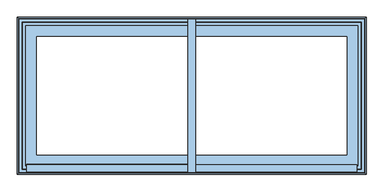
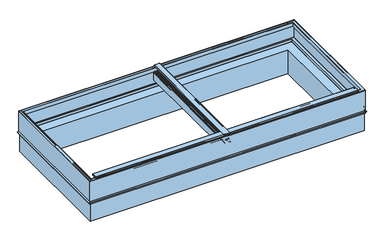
"""IFC4 building model written with IfcOpenShell, lengths in millimetres: window geometry, L&A_KlearSky_R19_GM_SingleSlope_LOD200 : KlearSky_Single Slope."""

from ifc_helpers import new_model, si_unit, point, frame, frame_2d, origin, place, context, project, spatial, polyline, circle_curve, ellipse_curve, trimmed, segment, composite_curve, outline, extrude, source, transform, mapped, element, save
from ifc_brep_helpers import plane_surface, cylinder_surface, advanced_brep


def window_92d759fe(model_context):
    return source(origin(), model_context, "Body", "SolidModel", [
        extrude(outline(composite_curve([segment(polyline([(-1233.2967315, 4352.8876055), (-1233.2967315, 4343.3626055), (-1240.1116995, 4336.5476376)]), True, "CONTINUOUS"), segment(trimmed(circle_curve(frame_2d((-1238.9891675, 4335.4251055)), 1.5875), [point((-1240.1116995, 4336.5476376))], [point((-1238.9891675, 4333.8376055))], True, "CARTESIAN"), True, "CONTINUOUS"), segment(polyline([(-1238.9891675, 4333.8376055), (-1228.9279315, 4333.8376055), (-1228.9279315, 4340.1876055), (-1226.9467315, 4340.1876055), (-1226.9467315, 4302.0876055), (-1290.4467315, 4302.0876055), (-1290.4467315, 4340.1876055), (-1288.4655315, 4340.1876055), (-1288.4655315, 4333.8376055), (-1271.3967315, 4333.8376055)]), True, "CONTINUOUS"), segment(trimmed(circle_curve(frame_2d((-1271.3967315, 4337.0126055)), 3.175), [point((-1271.3967315, 4333.8376055))], [point((-1268.2217315, 4337.0126055))], True, "CARTESIAN"), True, "CONTINUOUS"), segment(polyline([(-1268.2217315, 4337.0126055), (-1265.0467315, 4340.1876055), (-1265.0467315, 4344.9501055), (-1272.9842315, 4344.9501055)]), True, "CONTINUOUS"), segment(trimmed(circle_curve(frame_2d((-1272.9842315, 4346.5376055)), 1.5875), [point((-1272.9842315, 4344.9501055))], [point((-1274.5717315, 4346.5376055))], False, "CARTESIAN"), True, "CONTINUOUS"), segment(polyline([(-1274.5717315, 4346.5376055), (-1274.5717315, 4352.8876055), (-1271.0792315, 4352.8876055)]), True, "CONTINUOUS"), segment(trimmed(circle_curve(frame_2d((-1271.0792315, 4351.5858555)), 1.30175), [point((-1271.0792315, 4352.8876055))], [point((-1269.8092315, 4351.3001055))], False, "CARTESIAN"), True, "CONTINUOUS"), segment(polyline([(-1269.8092315, 4351.3001055), (-1271.3967315, 4351.3001055), (-1271.3967315, 4348.1251055), (-1265.0467315, 4348.1251055), (-1265.0467315, 4351.3001055), (-1266.6342315, 4351.3001055)]), True, "CONTINUOUS"), segment(trimmed(circle_curve(frame_2d((-1265.3642315, 4351.5858555)), 1.30175), [point((-1266.6342315, 4351.3001055))], [point((-1265.3642315, 4352.8876055))], False, "CARTESIAN"), True, "CONTINUOUS"), segment(polyline([(-1265.3642315, 4352.8876055), (-1263.2433315, 4352.8876055), (-1261.0131138, 4350.6573878), (-1262.0037138, 4350.0854646), (-1260.9777492, 4349.4931237), (-1262.0037138, 4348.9007828), (-1260.9777492, 4348.3084419), (-1262.0037138, 4347.716101), (-1260.9777492, 4347.1237601), (-1262.0037138, 4346.5314192), (-1260.9777492, 4345.9390783), (-1262.0037138, 4345.3467374), (-1260.9777492, 4344.7543965), (-1262.0037138, 4344.1620556), (-1260.9777492, 4343.5697147), (-1262.0037138, 4342.9773738), (-1260.9777492, 4342.3850329), (-1262.0037138, 4341.792692), (-1260.9777492, 4341.2003511), (-1262.0037138, 4340.6080102), (-1260.9777492, 4340.0156692), (-1262.0037138, 4339.4233283), (-1260.9777492, 4338.8309874), (-1262.0037138, 4338.2386465), (-1260.9777492, 4337.6463056), (-1262.07535, 4337.0126055), (-1263.4592315, 4337.0126055)]), True, "CONTINUOUS"), segment(trimmed(circle_curve(frame_2d((-1263.4592315, 4335.4251055)), 1.5875), [point((-1263.4592315, 4337.0126055))], [point((-1263.4592315, 4333.8376055))], True, "CARTESIAN"), True, "CONTINUOUS"), segment(polyline([(-1263.4592315, 4333.8376055), (-1253.9342315, 4333.8376055)]), True, "CONTINUOUS"), segment(trimmed(circle_curve(frame_2d((-1253.9342315, 4335.4251055)), 1.5875), [point((-1253.9342315, 4333.8376055))], [point((-1253.9342315, 4337.0126055))], True, "CARTESIAN"), True, "CONTINUOUS"), segment(polyline([(-1253.9342315, 4337.0126055), (-1255.5217315, 4337.0126055), (-1255.5217315, 4337.7945933), (-1256.4157138, 4338.2686056), (-1255.3897492, 4338.8609465), (-1256.4157138, 4339.4532874), (-1255.3897492, 4340.0456283), (-1256.4157138, 4340.6379692), (-1255.3897492, 4341.2303102), (-1256.4157138, 4341.8226511), (-1255.3897492, 4342.414992), (-1256.4157138, 4343.0073329), (-1255.3897492, 4343.5996738), (-1256.4157138, 4344.1920147), (-1255.3897492, 4344.7843556), (-1256.4157138, 4345.3766965), (-1255.3897492, 4345.9690374), (-1256.4157138, 4346.5613783), (-1255.3897492, 4347.1537192), (-1256.4157138, 4347.7460601), (-1255.3897492, 4348.338401), (-1256.4157138, 4348.9307419), (-1255.3897492, 4349.5230828), (-1256.4157138, 4350.1154237), (-1255.3897492, 4350.7077646), (-1256.3803492, 4351.2796878), (-1255.5217315, 4352.1383055), (-1255.5217315, 4382.9343213), (-1252.3467315, 4382.9343213), (-1252.3467315, 4340.1876055), (-1249.1717315, 4337.0126055), (-1249.1717315, 4333.8376055), (-1244.4092315, 4333.8376055), (-1244.4092315, 4336.7402336), (-1238.9093916, 4342.2400735)]), True, "CONTINUOUS"), segment(trimmed(circle_curve(frame_2d((-1240.0319236, 4343.3626055)), 1.5875), [point((-1238.9093916, 4342.2400735))], [point((-1240.0319236, 4344.9501055))], True, "CARTESIAN"), True, "CONTINUOUS"), segment(polyline([(-1240.0319236, 4344.9501055), (-1243.6142115, 4344.9501055)]), True, "CONTINUOUS"), segment(trimmed(circle_curve(frame_2d((-1243.6142115, 4346.5376055)), 1.5875), [point((-1243.6142115, 4344.9501055))], [point((-1245.2017115, 4346.5376055))], False, "CARTESIAN"), True, "CONTINUOUS"), segment(polyline([(-1245.2017115, 4346.5376055), (-1245.2017115, 4351.3001055)]), True, "CONTINUOUS"), segment(trimmed(circle_curve(frame_2d((-1243.6142115, 4351.3001055)), 1.5875), [point((-1245.2017115, 4351.3001055))], [point((-1243.6142115, 4352.8876055))], False, "CARTESIAN"), True, "CONTINUOUS"), segment(polyline([(-1243.6142115, 4352.8876055), (-1242.5042315, 4352.8876055)]), True, "CONTINUOUS"), segment(trimmed(circle_curve(frame_2d((-1242.5042315, 4351.5858555)), 1.30175), [point((-1242.5042315, 4352.8876055))], [point((-1241.2342315, 4351.3001055))], False, "CARTESIAN"), True, "CONTINUOUS"), segment(polyline([(-1241.2342315, 4351.3001055), (-1242.8217315, 4351.3001055), (-1242.8217315, 4348.1251055), (-1236.4717315, 4348.1251055), (-1236.4717315, 4351.3001055), (-1238.0592315, 4351.3001055)]), True, "CONTINUOUS"), segment(trimmed(circle_curve(frame_2d((-1236.7892315, 4351.5858555)), 1.30175), [point((-1238.0592315, 4351.3001055))], [point((-1236.7892315, 4352.8876055))], False, "CARTESIAN"), True, "CONTINUOUS"), segment(polyline([(-1236.7892315, 4352.8876055), (-1233.2967315, 4352.8876055)]), True, "CONTINUOUS")], self_intersect=False), holes=[polyline([(-1230.1217315, 4305.2626055), (-1230.1217315, 4330.6626055), (-1287.2717315, 4330.6626055), (-1287.2717315, 4305.2626055), (-1230.1217315, 4305.2626055)])]), frame((-1362.5577575, 0.0, 0.0), z_axis=(1.0, 0.0, 0.0), x_axis=(0.0, 1.0, 0.0)), (0.0, 0.0, 1.0), 1281.90625),
        extrude(outline(polyline([(4401.3552675, -75.020397), (4401.3552675, -76.2065075), (4403.9700471, -76.2065075), (4403.9700471, -74.5958203), (4405.3670471, -74.5958203), (4405.3670471, -76.2065075), (4407.4074664, -76.2065075), (4407.4074664, -21.5965075), (4405.3670471, -21.5965075), (4405.3670471, -23.2071947), (4403.9700471, -23.2071947), (4403.9700471, -21.5965075), (4401.3552675, -21.5965075), (4401.3552675, -22.782618), (4395.9774664, -20.8252584), (4395.9774664, -20.0376171), (4408.8044664, -20.0376171), (4408.8044664, -77.7653979), (4395.9774664, -77.7653979), (4395.9774664, -76.9777565), (4401.3552675, -75.020397)])), frame((0.0, -1290.4467315, 0.0), z_axis=(0.0, 1.0, 0.0), x_axis=(0.0, 0.0, 1.0)), (0.0, 0.0, 1.0), 1219.2),
        extrude(outline(composite_curve([segment(trimmed(circle_curve(frame_2d((4397.2464786, -31.5726032)), 1.271373), [point((4395.9751055, -31.5726032))], [point((4397.2464786, -30.3012302))], False, "CARTESIAN"), True, "CONTINUOUS"), segment(polyline([(4397.2464786, -30.3012302), (4397.2464786, -31.8778732), (4399.9455098, -31.8778732), (4399.9455098, -25.5278732), (4397.2466105, -25.5278732), (4397.2466105, -27.1103193)]), True, "CONTINUOUS"), segment(trimmed(circle_curve(frame_2d((4397.2466105, -25.8411752)), 1.2691441), [point((4397.2466105, -27.1103193))], [point((4395.9774664, -25.8411752))], False, "CARTESIAN"), True, "CONTINUOUS"), segment(polyline([(4395.9774664, -25.8411752), (4395.9774664, -20.8304247), (4401.8126345, -22.9542522), (4401.8126345, -21.7701415), (4403.59401, -22.4251709), (4403.59401, -25.1976687), (4402.333983, -24.7390564), (4402.333983, -33.1025836), (4399.945698, -35.4908686), (4399.1501055, -35.4908686), (4399.1501055, -62.3121463), (4399.945698, -62.3121463), (4402.333983, -64.7004313), (4402.333983, -73.0639586), (4403.59401, -72.6053463), (4403.59401, -75.3778441), (4401.8126345, -76.0328734), (4401.8126345, -74.8487628), (4395.9774664, -76.9725903), (4395.9774664, -71.9618398)]), True, "CONTINUOUS"), segment(trimmed(circle_curve(frame_2d((4397.2466105, -71.9618398)), 1.2691441), [point((4395.9774664, -71.9618398))], [point((4397.2466105, -70.6926957))], False, "CARTESIAN"), True, "CONTINUOUS"), segment(polyline([(4397.2466105, -70.6926957), (4397.2466105, -72.2751417), (4399.9455098, -72.2751417), (4399.9455098, -65.9251417), (4397.2464786, -65.9251417), (4397.2464786, -67.5017848)]), True, "CONTINUOUS"), segment(trimmed(circle_curve(frame_2d((4397.2464786, -66.2304117)), 1.271373), [point((4397.2464786, -67.5017848))], [point((4395.9751055, -66.2304117))], False, "CARTESIAN"), True, "CONTINUOUS"), segment(polyline([(4395.9751055, -66.2304117), (4395.9751055, -31.5726032)]), True, "CONTINUOUS")], self_intersect=False)), frame((0.0, -1290.4467315, 0.0), z_axis=(0.0, 1.0, 0.0), x_axis=(0.0, 0.0, 1.0)), (0.0, 0.0, 1.0), 1219.2),
        extrude(outline(composite_curve([segment(polyline([(4251.516, -17.1515075), (4330.9041461, -17.1515075), (4330.9041461, -17.934957), (4327.7170266, -19.5321173), (4324.5428947, -19.5321173), (4324.5428947, -31.441944), (4335.6514853, -31.441944), (4343.6041242, -23.489305), (4353.1251055, -23.489305), (4353.1251055, -26.9900175)]), True, "CONTINUOUS"), segment(trimmed(circle_curve(frame_2d((4351.8115438, -26.9900175)), 1.3135617), [point((4353.1251055, -26.9900175))], [point((4351.5291279, -28.2728603))], False, "CARTESIAN"), True, "CONTINUOUS"), segment(polyline([(4351.5291279, -28.2728603), (4351.5291279, -26.6869838), (4348.3573749, -26.6869838), (4348.3573749, -33.0369838), (4351.5291279, -33.0369838), (4351.5291279, -31.4422598)]), True, "CONTINUOUS"), segment(trimmed(circle_curve(frame_2d((4351.8605458, -32.655481)), 1.2576738), [point((4351.5291279, -31.4422598))], [point((4353.1182196, -32.655481))], False, "CARTESIAN"), True, "CONTINUOUS"), segment(polyline([(4353.1182196, -32.655481), (4353.1182196, -33.8851831)]), True, "CONTINUOUS"), segment(trimmed(circle_curve(frame_2d((4351.5984072, -33.8851831)), 1.5198125), [point((4353.1182196, -33.8851831))], [point((4351.5291279, -35.4034157))], False, "CARTESIAN"), True, "CONTINUOUS"), segment(polyline([(4351.5291279, -35.4034157), (4346.6033287, -35.4034157)]), True, "CONTINUOUS"), segment(trimmed(circle_curve(frame_2d((4346.6033287, -33.9873896)), 1.4160261), [point((4346.6033287, -35.4034157))], [point((4345.1873026, -33.9873896))], False, "CARTESIAN"), True, "CONTINUOUS"), segment(polyline([(4345.1873026, -33.9873896), (4345.1873026, -30.283417)]), True, "CONTINUOUS"), segment(trimmed(circle_curve(frame_2d((4343.5742926, -30.283417)), 1.61301), [point((4345.1873026, -30.283417))], [point((4342.4437347, -29.1329215))], True, "CARTESIAN"), True, "CONTINUOUS"), segment(polyline([(4342.4437347, -29.1329215), (4336.9624441, -34.6142121), (4330.8940861, -34.6142121), (4330.8940861, -42.5557291), (4351.707721, -42.5557291)]), True, "CONTINUOUS"), segment(trimmed(circle_curve(frame_2d((4351.707721, -44.0182085)), 1.4624793), [point((4351.707721, -42.5557291))], [point((4353.1267585, -44.3720143))], False, "CARTESIAN"), True, "CONTINUOUS"), segment(polyline([(4353.1267585, -44.3720143), (4350.9063037, -46.4884814), (4350.3158738, -45.7327656), (4349.725444, -46.4884814), (4349.1350141, -45.7327656), (4348.5445842, -46.4884814), (4347.9541543, -45.7327656), (4347.3637245, -46.4884814), (4346.7732946, -45.7327656), (4346.1828647, -46.4884814), (4345.5924348, -45.7327656), (4345.002005, -46.4884814), (4344.4115751, -45.7327656), (4343.8211452, -46.4884814), (4343.2307153, -45.7327656), (4342.6402854, -46.4884814), (4342.0498556, -45.7327656), (4341.4594257, -46.4884814), (4340.8689958, -45.7327656), (4340.2785659, -46.4884814), (4339.6881361, -45.7327656), (4339.0977062, -46.4884814), (4338.5072763, -45.7327656), (4337.9168464, -46.4884814), (4337.3264166, -45.7327656), (4334.0661773, -45.7327656), (4334.0661773, -52.0702493), (4337.3264166, -52.0702493), (4337.9168464, -51.3145336), (4338.5072763, -52.0702493), (4339.0977062, -51.3145336), (4339.6881361, -52.0702493), (4340.2785659, -51.3145336), (4340.8689958, -52.0702493), (4341.4594257, -51.3145336), (4342.0498556, -52.0702493), (4342.6402854, -51.3145336), (4343.2307153, -52.0702493), (4343.8211452, -51.3145336), (4344.4115751, -52.0702493), (4345.002005, -51.3145336), (4345.5924348, -52.0702493), (4346.1828647, -51.3145336), (4346.7732946, -52.0702493), (4347.3637245, -51.3145336), (4347.9541543, -52.0702493), (4348.5445842, -51.3145336), (4349.1350141, -52.0702493), (4349.725444, -51.3145336), (4350.3158738, -52.0702493), (4350.9063037, -51.3145336), (4353.1267585, -53.4310007)]), True, "CONTINUOUS"), segment(trimmed(circle_curve(frame_2d((4351.707721, -53.7848065)), 1.4624793), [point((4353.1267585, -53.4310007))], [point((4351.707721, -55.2472858))], False, "CARTESIAN"), True, "CONTINUOUS"), segment(polyline([(4351.707721, -55.2472858), (4330.8940861, -55.2472858), (4330.8940861, -63.1888029), (4336.9624441, -63.1888029), (4342.4437347, -68.6700935)]), True, "CONTINUOUS"), segment(trimmed(circle_curve(frame_2d((4343.5742926, -67.519598)), 1.61301), [point((4342.4437347, -68.6700935))], [point((4345.1873026, -67.519598))], True, "CARTESIAN"), True, "CONTINUOUS"), segment(polyline([(4345.1873026, -67.519598), (4345.1873026, -63.8156254)]), True, "CONTINUOUS"), segment(trimmed(circle_curve(frame_2d((4346.6033287, -63.8156254)), 1.4160261), [point((4345.1873026, -63.8156254))], [point((4346.6033287, -62.3995993))], False, "CARTESIAN"), True, "CONTINUOUS"), segment(polyline([(4346.6033287, -62.3995993), (4351.5291279, -62.3995993)]), True, "CONTINUOUS"), segment(trimmed(circle_curve(frame_2d((4351.5984072, -63.9178319)), 1.5198125), [point((4351.5291279, -62.3995993))], [point((4353.1182196, -63.9178319))], False, "CARTESIAN"), True, "CONTINUOUS"), segment(polyline([(4353.1182196, -63.9178319), (4353.1182196, -65.147534)]), True, "CONTINUOUS"), segment(trimmed(circle_curve(frame_2d((4351.8605458, -65.147534)), 1.2576738), [point((4353.1182196, -65.147534))], [point((4351.5291279, -66.3607552))], False, "CARTESIAN"), True, "CONTINUOUS"), segment(polyline([(4351.5291279, -66.3607552), (4351.5291279, -64.7660312), (4348.3573749, -64.7660312), (4348.3573749, -71.1160312), (4351.5291279, -71.1160312), (4351.5291279, -69.5301546)]), True, "CONTINUOUS"), segment(trimmed(circle_curve(frame_2d((4351.8115438, -70.8129974)), 1.3135617), [point((4351.5291279, -69.5301546))], [point((4353.1251055, -70.8129974))], False, "CARTESIAN"), True, "CONTINUOUS"), segment(polyline([(4353.1251055, -70.8129974), (4353.1251055, -74.3137099), (4343.6041242, -74.3137099), (4335.6514853, -66.361071), (4324.5428947, -66.361071), (4324.5428947, -78.2708977), (4327.7170266, -78.2708977), (4330.9041461, -79.868058), (4330.9041461, -80.6515075), (4251.516, -80.6515075), (4251.516, -17.1515075)]), True, "CONTINUOUS")], self_intersect=False), holes=[composite_curve([segment(trimmed(circle_curve(frame_2d((4313.0272313, -76.6827575)), 0.79375), [point((4313.0272313, -77.4765075))], [point((4313.7678249, -76.3971701))], True, "CARTESIAN"), True, "CONTINUOUS"), segment(trimmed(circle_curve(frame_2d((4317.6544602, -74.8984075)), 4.1656), [point((4313.7678249, -76.3971701))], [point((4313.5028905, -75.24001))], False, "CARTESIAN"), True, "CONTINUOUS"), segment(trimmed(circle_curve(frame_2d((4314.293967, -75.174918)), 0.79375), [point((4313.5028905, -75.24001))], [point((4315.0850436, -75.1098261))], False, "CARTESIAN"), True, "CONTINUOUS"), segment(trimmed(circle_curve(frame_2d((4317.6544602, -74.8984075)), 2.5781), [point((4315.0850436, -75.1098261))], [point((4317.8658788, -72.3289909))], True, "CARTESIAN"), True, "CONTINUOUS"), segment(trimmed(circle_curve(frame_2d((4317.9309708, -71.5379143)), 0.79375), [point((4317.8658788, -72.3289909))], [point((4317.9960627, -70.7468378))], False, "CARTESIAN"), True, "CONTINUOUS"), segment(trimmed(circle_curve(frame_2d((4317.6544602, -74.8984075)), 4.1656), [point((4317.9960627, -70.7468378))], [point((4319.1532228, -71.0117722))], False, "CARTESIAN"), True, "CONTINUOUS"), segment(trimmed(circle_curve(frame_2d((4319.4388102, -70.2711786)), 0.79375), [point((4319.1532228, -71.0117722))], [point((4320.2325602, -70.2711786))], True, "CARTESIAN"), True, "CONTINUOUS"), segment(polyline([(4320.2325602, -70.2711786), (4320.2325602, -64.7765075)]), True, "CONTINUOUS"), segment(trimmed(circle_curve(frame_2d((4321.8200602, -64.7765075)), 1.5875), [point((4320.2325602, -64.7765075))], [point((4321.8200602, -63.1890075))], False, "CARTESIAN"), True, "CONTINUOUS"), segment(polyline([(4321.8200602, -63.1890075), (4327.716, -63.1890075), (4327.716, -34.6140075), (4321.8200602, -34.6140075)]), True, "CONTINUOUS"), segment(trimmed(circle_curve(frame_2d((4321.8200602, -33.0265075)), 1.5875), [point((4321.8200602, -34.6140075))], [point((4320.2325602, -33.0265075))], False, "CARTESIAN"), True, "CONTINUOUS"), segment(polyline([(4320.2325602, -33.0265075), (4320.2325602, -27.5318364)]), True, "CONTINUOUS"), segment(trimmed(circle_curve(frame_2d((4319.4388102, -27.5318364)), 0.79375), [point((4320.2325602, -27.5318364))], [point((4319.1532228, -26.7912428))], True, "CARTESIAN"), True, "CONTINUOUS"), segment(trimmed(circle_curve(frame_2d((4317.6544602, -22.9046075)), 4.1656), [point((4319.1532228, -26.7912428))], [point((4317.9960627, -27.0561772))], False, "CARTESIAN"), True, "CONTINUOUS"), segment(trimmed(circle_curve(frame_2d((4317.9309708, -26.2651007)), 0.79375), [point((4317.9960627, -27.0561772))], [point((4317.8658788, -25.4740241))], False, "CARTESIAN"), True, "CONTINUOUS"), segment(trimmed(circle_curve(frame_2d((4317.6544602, -22.9046075)), 2.5781), [point((4317.8658788, -25.4740241))], [point((4315.0850436, -22.6931889))], True, "CARTESIAN"), True, "CONTINUOUS"), segment(trimmed(circle_curve(frame_2d((4314.293967, -22.6280969)), 0.79375), [point((4315.0850436, -22.6931889))], [point((4313.5028905, -22.563005))], False, "CARTESIAN"), True, "CONTINUOUS"), segment(trimmed(circle_curve(frame_2d((4317.6544602, -22.9046075)), 4.1656), [point((4313.5028905, -22.563005))], [point((4313.7678249, -21.4058449))], False, "CARTESIAN"), True, "CONTINUOUS"), segment(trimmed(circle_curve(frame_2d((4313.0272313, -21.1202575)), 0.79375), [point((4313.7678249, -21.4058449))], [point((4313.0272313, -20.3265075))], True, "CARTESIAN"), True, "CONTINUOUS"), segment(polyline([(4313.0272313, -20.3265075), (4256.2785, -20.3265075), (4256.2785, -77.4765075), (4313.0272313, -77.4765075)]), True, "CONTINUOUS")], self_intersect=False)]), frame((0.0, -1290.4467315, 0.0), z_axis=(0.0, 1.0, 0.0), x_axis=(0.0, 0.0, 1.0)), (0.0, 0.0, 1.0), 1219.2),
        extrude(outline(composite_curve([segment(polyline([(-1241.3678272, 4395.9876055), (-1276.0256357, 4395.9876055)]), True, "CONTINUOUS"), segment(trimmed(circle_curve(frame_2d((-1276.0256357, 4397.2589786)), 1.271373), [point((-1276.0256357, 4395.9876055))], [point((-1277.2970088, 4397.2589786))], False, "CARTESIAN"), True, "CONTINUOUS"), segment(polyline([(-1277.2970088, 4397.2589786), (-1275.7203657, 4397.2589786), (-1275.7203657, 4399.9580098), (-1282.0703657, 4399.9580098), (-1282.0703657, 4397.2591105), (-1280.4879197, 4397.2591105)]), True, "CONTINUOUS"), segment(trimmed(circle_curve(frame_2d((-1281.7570638, 4397.2591105)), 1.2691441), [point((-1280.4879197, 4397.2591105))], [point((-1281.7570638, 4395.9899664))], False, "CARTESIAN"), True, "CONTINUOUS"), segment(polyline([(-1281.7570638, 4395.9899664), (-1286.7678143, 4395.9899664), (-1284.6439868, 4401.8251345), (-1285.8280974, 4401.8251345), (-1285.1730681, 4403.60651), (-1282.4005703, 4403.60651), (-1282.8591826, 4402.346483), (-1274.4956554, 4402.346483), (-1272.1073703, 4399.958198), (-1272.1073703, 4399.1626055), (-1245.2860926, 4399.1626055), (-1245.2860926, 4399.958198), (-1242.8978076, 4402.346483), (-1234.5342804, 4402.346483), (-1234.9928927, 4403.60651), (-1232.2203949, 4403.60651), (-1231.5653655, 4401.8251345), (-1232.7494762, 4401.8251345), (-1230.6256487, 4395.9899664), (-1235.6363992, 4395.9899664)]), True, "CONTINUOUS"), segment(trimmed(circle_curve(frame_2d((-1235.6363992, 4397.2591105)), 1.2691441), [point((-1235.6363992, 4395.9899664))], [point((-1236.9055433, 4397.2591105))], False, "CARTESIAN"), True, "CONTINUOUS"), segment(polyline([(-1236.9055433, 4397.2591105), (-1235.3230972, 4397.2591105), (-1235.3230972, 4399.9580098), (-1241.6730972, 4399.9580098), (-1241.6730972, 4397.2589786), (-1240.0964542, 4397.2589786)]), True, "CONTINUOUS"), segment(trimmed(circle_curve(frame_2d((-1241.3678272, 4397.2589786)), 1.271373), [point((-1240.0964542, 4397.2589786))], [point((-1241.3678272, 4395.9876055))], False, "CARTESIAN"), True, "CONTINUOUS")], self_intersect=False)), frame((-1362.5577575, 0.0, 0.0), z_axis=(1.0, 0.0, 0.0), x_axis=(0.0, 1.0, 0.0)), (0.0, 0.0, 1.0), 2627.3),
        extrude(outline(polyline([(-1284.815621, 4401.3677675), (-1286.7729805, 4395.9899664), (-1287.5606219, 4395.9899664), (-1287.5606219, 4408.8169664), (-1229.8328411, 4408.8169664), (-1229.8328411, 4395.9899664), (-1230.6204824, 4395.9899664), (-1232.577842, 4401.3677675), (-1231.3917315, 4401.3677675), (-1231.3917315, 4403.9825471), (-1233.0024187, 4403.9825471), (-1233.0024187, 4405.3795471), (-1231.3917315, 4405.3795471), (-1231.3917315, 4407.4199664), (-1286.0017315, 4407.4199664), (-1286.0017315, 4405.3795471), (-1284.3910443, 4405.3795471), (-1284.3910443, 4403.9825471), (-1286.0017315, 4403.9825471), (-1286.0017315, 4401.3677675), (-1284.815621, 4401.3677675)])), frame((-1362.5577575, 0.0, 0.0), z_axis=(1.0, 0.0, 0.0), x_axis=(0.0, 1.0, 0.0)), (0.0, 0.0, 1.0), 2627.3),
        advanced_brep(
        [(-1370.56977, -1238.9410877, 4213.1613314), (-1370.56977, -1238.9410877, 4238.8078838), (1272.754255, -1238.9410877, 4238.8078838), (1272.754255, -1238.9410877, 4213.1613314), (-1371.58577, -1239.9570877, 4238.8078838), (-1371.58577, -1239.9570877, 4213.4078838), (1273.770255, -1239.9570877, 4213.4078838), (1273.770255, -1239.9570877, 4238.8078838), (-1421.3643548, -1289.7356726, 4213.4078838), (-1422.13177, -1290.5030877, 4212.6404686), (1324.316255, -1290.5030877, 4212.6404686), (1323.5488399, -1289.7356726, 4213.4078838), (-1422.13177, -1290.5030877, 4161.5918838), (1324.316255, -1290.5030877, 4161.5918838), (-1431.1120261, -1299.4833439, 4152.6116277), (1333.2965111, -1299.4833439, 4152.6116277), (-1430.3936056, -1298.7649234, 4151.8932072), (1332.5780906, -1298.7649234, 4151.8932072), (-1421.576116, -1289.9474337, 4160.7106968), (1323.760601, -1289.9474337, 4160.7106968), (-1421.11577, -1289.4870877, 4161.8220704), (1323.300255, -1289.4870877, 4161.8220704), (-1421.11577, -1289.4870877, 4212.3918838), (1323.300255, -1289.4870877, 4212.3918838), (-1371.3392176, -1239.7105354, 4212.3918838), (1273.5237026, -1239.7105354, 4212.3918838), (1272.754255, -121.184719, 4238.8078838), (1272.754255, -121.184719, 4213.1613314), (1273.770255, -120.168719, 4213.4078838), (1273.770255, -120.168719, 4238.8078838), (1324.316255, -69.622719, 4212.6404686), (1323.5488399, -70.3901342, 4213.4078838), (1324.316255, -69.622719, 4161.5918838), (1333.2965111, -60.6424629, 4152.6116277), (1332.5780906, -61.3608834, 4151.8932072), (1323.760601, -70.178373, 4160.7106968), (1323.300255, -70.638719, 4161.8220704), (1323.300255, -70.638719, 4212.3918838), (1273.5237026, -120.4152714, 4212.3918838), (-1370.56977, -121.184719, 4238.8078838), (-1370.56977, -121.184719, 4213.1613314), (-1371.58577, -120.168719, 4213.4078838), (-1371.58577, -120.168719, 4238.8078838), (-1422.13177, -69.622719, 4212.6404686), (-1421.3643548, -70.3901342, 4213.4078838), (-1422.13177, -69.622719, 4161.5918838), (-1431.1120261, -60.6424629, 4152.6116277), (-1430.3936056, -61.3608834, 4151.8932072), (-1421.576116, -70.178373, 4160.7106968), (-1421.11577, -70.638719, 4161.8220704), (-1421.11577, -70.638719, 4212.3918838), (-1371.3392176, -120.4152714, 4212.3918838)],
        [
            (0, 1),
            (1, 2),
            (2, 3),
            (3, 0),
            (4, 5),
            (5, 6),
            (6, 7),
            (7, 4),
            (8, 9, ellipse_curve(frame((-1421.3643548, -1289.7356726, 4212.6404686), z_axis=(0.7071067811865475, -0.7071067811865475, 0.0), x_axis=(-0.7071067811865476, -0.7071067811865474, 0.0)), 1.0852889, 0.7674152)),
            (9, 10),
            (10, 11, ellipse_curve(frame((1323.5488399, -1289.7356726, 4212.6404686), z_axis=(-0.7071067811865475, -0.7071067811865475, 0.0), x_axis=(-0.7071067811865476, 0.7071067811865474, 0.0)), 1.0852889, 0.7674152)),
            (11, 8),
            (9, 12),
            (12, 13),
            (13, 10),
            (12, 14),
            (14, 15),
            (15, 13),
            (14, 16),
            (16, 17),
            (17, 15),
            (16, 18),
            (18, 19),
            (19, 17),
            (18, 20, ellipse_curve(frame((-1422.6874895, -1291.0588073, 4161.8220704), z_axis=(0.7071067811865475, -0.7071067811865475, 0.0), x_axis=(-0.7071067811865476, -0.7071067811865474, 0.0)), 2.2227471, 1.5717195)),
            (20, 21),
            (21, 19, ellipse_curve(frame((1324.8719746, -1291.0588073, 4161.8220704), z_axis=(-0.7071067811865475, -0.7071067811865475, 0.0), x_axis=(-0.7071067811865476, 0.7071067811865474, 0.0)), 2.2227471, 1.5717195)),
            (20, 22),
            (22, 23),
            (23, 21),
            (24, 0, ellipse_curve(frame((-1371.3392176, -1239.7105354, 4213.1613314), z_axis=(0.7071067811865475, -0.7071067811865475, 0.0), x_axis=(-0.7071067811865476, -0.7071067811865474, 0.0)), 1.0881633, 0.7694476)),
            (3, 25, ellipse_curve(frame((1273.5237026, -1239.7105354, 4213.1613314), z_axis=(-0.7071067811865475, -0.7071067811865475, 0.0), x_axis=(-0.7071067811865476, 0.7071067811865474, 0.0)), 1.0881633, 0.7694476)),
            (25, 24),
            (2, 26),
            (26, 27),
            (27, 3),
            (6, 28),
            (28, 29),
            (29, 7),
            (10, 30),
            (30, 31, ellipse_curve(frame((1323.5488399, -70.3901342, 4212.6404686), z_axis=(0.7071067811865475, -0.7071067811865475, 0.0), x_axis=(-0.7071067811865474, -0.7071067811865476, 0.0)), 1.0852889, 0.7674152)),
            (31, 11),
            (13, 32),
            (32, 30),
            (15, 33),
            (33, 32),
            (17, 34),
            (34, 33),
            (19, 35),
            (35, 34),
            (21, 36),
            (36, 35, ellipse_curve(frame((1324.8719746, -69.0669994, 4161.8220704), z_axis=(0.7071067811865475, -0.7071067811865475, 0.0), x_axis=(-0.7071067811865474, -0.7071067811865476, 0.0)), 2.2227471, 1.5717195)),
            (23, 37),
            (37, 36),
            (27, 38, ellipse_curve(frame((1273.5237026, -120.4152714, 4213.1613314), z_axis=(0.7071067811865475, -0.7071067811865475, 0.0), x_axis=(-0.7071067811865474, -0.7071067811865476, 0.0)), 1.0881633, 0.7694476)),
            (38, 25),
            (26, 39),
            (39, 40),
            (40, 27),
            (28, 41),
            (41, 42),
            (42, 29),
            (30, 43),
            (43, 44, ellipse_curve(frame((-1421.3643548, -70.3901342, 4212.6404686), z_axis=(0.7071067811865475, 0.7071067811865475, 0.0), x_axis=(0.7071067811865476, -0.7071067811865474, 0.0)), 1.0852889, 0.7674152)),
            (44, 31),
            (32, 45),
            (45, 43),
            (33, 46),
            (46, 45),
            (34, 47),
            (47, 46),
            (35, 48),
            (48, 47),
            (36, 49),
            (49, 48, ellipse_curve(frame((-1422.6874895, -69.0669994, 4161.8220704), z_axis=(0.7071067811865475, 0.7071067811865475, 0.0), x_axis=(0.7071067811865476, -0.7071067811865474, 0.0)), 2.2227471, 1.5717195)),
            (37, 50),
            (50, 49),
            (40, 51, ellipse_curve(frame((-1371.3392176, -120.4152714, 4213.1613314), z_axis=(0.7071067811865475, 0.7071067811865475, 0.0), x_axis=(0.7071067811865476, -0.7071067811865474, 0.0)), 1.0881633, 0.7694476)),
            (51, 38),
            (39, 1),
            (0, 40),
            (42, 4),
            (41, 5),
            (44, 8),
            (43, 9),
            (45, 12),
            (46, 14),
            (47, 16),
            (48, 18),
            (49, 20),
            (50, 22),
            (51, 24),
        ],
        [
            plane_surface(frame((-1370.56977, -1238.9410877, 4238.8078838), z_axis=(0.0, 1.0, 0.0), x_axis=(1.0, 0.0, 0.0))),
            plane_surface(frame((-1371.58577, -1239.9570877, 4213.4078838), z_axis=(0.0, -1.0, 0.0), x_axis=(1.0, 0.0, 0.0))),
            cylinder_surface(frame((-1420.5077575, -1289.7356726, 4212.6404686), z_axis=(-1.0, 0.0, 0.0), x_axis=(0.0, -1.0, 0.0)), 0.7674152),
            plane_surface(frame((-1422.13177, -1290.5030877, 4161.5918838), z_axis=(0.0, -1.0, 0.0), x_axis=(1.0, 0.0, 0.0))),
            plane_surface(frame((-1431.1120261, -1299.4833439, 4152.6116277), z_axis=(0.0, -0.7071067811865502, 0.7071067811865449), x_axis=(1.0, 0.0, 0.0))),
            plane_surface(frame((-1430.3936056, -1298.7649234, 4151.8932072), z_axis=(0.0, -0.7071067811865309, -0.7071067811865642), x_axis=(1.0, 0.0, 0.0))),
            plane_surface(frame((-1421.576116, -1289.9474337, 4160.7106968), z_axis=(0.0, 0.7071067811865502, -0.7071067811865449), x_axis=(1.0, 0.0, 0.0))),
            cylinder_surface(frame((-1420.5077575, -1291.0588073, 4161.8220704), z_axis=(-1.0, 0.0, 0.0), x_axis=(0.0, -1.0, 0.0)), 1.5717195),
            plane_surface(frame((-1421.11577, -1289.4870877, 4212.3918838), z_axis=(0.0, 1.0, 0.0), x_axis=(1.0, 0.0, 0.0))),
            cylinder_surface(frame((-1420.5077575, -1239.7105354, 4213.1613314), z_axis=(-1.0, 0.0, 0.0), x_axis=(0.0, -1.0, 0.0)), 0.7694476),
            plane_surface(frame((1272.754255, -1238.9410877, 4238.8078838), z_axis=(-1.0, 0.0, 0.0), x_axis=(0.0, 1.0, 0.0))),
            plane_surface(frame((1273.770255, -1239.9570877, 4213.4078838), z_axis=(1.0, 0.0, 0.0), x_axis=(0.0, 1.0, 0.0))),
            cylinder_surface(frame((1323.5488399, -1288.8790752, 4212.6404686), z_axis=(0.0, -1.0, 0.0), x_axis=(1.0, 0.0, 0.0)), 0.7674152),
            plane_surface(frame((1324.316255, -1290.5030877, 4161.5918838), z_axis=(1.0, 0.0, 0.0), x_axis=(0.0, 1.0, 0.0))),
            plane_surface(frame((1333.2965111, -1299.4833439, 4152.6116277), z_axis=(0.7071067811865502, 0.0, 0.7071067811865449), x_axis=(0.0, 1.0, 0.0))),
            plane_surface(frame((1332.5780906, -1298.7649234, 4151.8932072), z_axis=(0.7071067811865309, 0.0, -0.7071067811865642), x_axis=(0.0, 1.0, 0.0))),
            plane_surface(frame((1323.760601, -1289.9474337, 4160.7106968), z_axis=(-0.7071067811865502, 0.0, -0.7071067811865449), x_axis=(0.0, 1.0, 0.0))),
            cylinder_surface(frame((1324.8719746, -1288.8790752, 4161.8220704), z_axis=(0.0, -1.0, 0.0), x_axis=(1.0, 0.0, 0.0)), 1.5717195),
            plane_surface(frame((1323.300255, -1289.4870877, 4212.3918838), z_axis=(-1.0, 0.0, 0.0), x_axis=(0.0, 1.0, 0.0))),
            cylinder_surface(frame((1273.5237026, -1288.8790752, 4213.1613314), z_axis=(0.0, -1.0, 0.0), x_axis=(1.0, 0.0, 0.0)), 0.7694476),
            plane_surface(frame((1272.754255, -121.184719, 4238.8078838), z_axis=(0.0, -1.0, 0.0), x_axis=(-1.0, 0.0, 0.0))),
            plane_surface(frame((1273.770255, -120.168719, 4213.4078838), z_axis=(0.0, 1.0, 0.0), x_axis=(-1.0, 0.0, 0.0))),
            cylinder_surface(frame((1322.6922425, -70.3901342, 4212.6404686), z_axis=(1.0, 0.0, 0.0), x_axis=(0.0, 1.0, 0.0)), 0.7674152),
            plane_surface(frame((1324.316255, -69.622719, 4161.5918838), z_axis=(0.0, 1.0, 0.0), x_axis=(-1.0, 0.0, 0.0))),
            plane_surface(frame((1333.2965111, -60.6424629, 4152.6116277), z_axis=(0.0, 0.7071067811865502, 0.7071067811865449), x_axis=(-1.0, 0.0, 0.0))),
            plane_surface(frame((1332.5780906, -61.3608834, 4151.8932072), z_axis=(0.0, 0.7071067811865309, -0.7071067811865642), x_axis=(-1.0, 0.0, 0.0))),
            plane_surface(frame((1323.760601, -70.178373, 4160.7106968), z_axis=(0.0, -0.7071067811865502, -0.7071067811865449), x_axis=(-1.0, 0.0, 0.0))),
            cylinder_surface(frame((1322.6922425, -69.0669994, 4161.8220704), z_axis=(1.0, 0.0, 0.0), x_axis=(0.0, 1.0, 0.0)), 1.5717195),
            plane_surface(frame((1323.300255, -70.638719, 4212.3918838), z_axis=(0.0, -1.0, 0.0), x_axis=(-1.0, 0.0, 0.0))),
            cylinder_surface(frame((1322.6922425, -120.4152714, 4213.1613314), z_axis=(1.0, 0.0, 0.0), x_axis=(0.0, 1.0, 0.0)), 0.7694476),
            plane_surface(frame((-1370.56977, -121.184719, 4238.8078838), z_axis=(1.0, 0.0, 0.0), x_axis=(0.0, -1.0, 0.0))),
            plane_surface(frame((-1371.58577, -120.168719, 4238.8078838), z_axis=(0.0, 0.0, 1.0), x_axis=(0.0, -1.0, 0.0))),
            plane_surface(frame((-1371.58577, -120.168719, 4213.4078838), z_axis=(-1.0, 0.0, 0.0), x_axis=(0.0, -1.0, 0.0))),
            plane_surface(frame((-1421.3643548, -70.3901342, 4213.4078838), z_axis=(0.0, 0.0, 1.0), x_axis=(0.0, -1.0, 0.0))),
            cylinder_surface(frame((-1421.3643548, -71.2467315, 4212.6404686), z_axis=(0.0, 1.0, 0.0), x_axis=(-1.0, 0.0, 0.0)), 0.7674152),
            plane_surface(frame((-1422.13177, -69.622719, 4161.5918838), z_axis=(-1.0, 0.0, 0.0), x_axis=(0.0, -1.0, 0.0))),
            plane_surface(frame((-1431.1120261, -60.6424629, 4152.6116277), z_axis=(-0.7071067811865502, 0.0, 0.7071067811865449), x_axis=(0.0, -1.0, 0.0))),
            plane_surface(frame((-1430.3936056, -61.3608834, 4151.8932072), z_axis=(-0.7071067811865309, 0.0, -0.7071067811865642), x_axis=(0.0, -1.0, 0.0))),
            plane_surface(frame((-1421.576116, -70.178373, 4160.7106968), z_axis=(0.7071067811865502, 0.0, -0.7071067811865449), x_axis=(0.0, -1.0, 0.0))),
            cylinder_surface(frame((-1422.6874895, -71.2467315, 4161.8220704), z_axis=(0.0, 1.0, 0.0), x_axis=(-1.0, 0.0, 0.0)), 1.5717195),
            plane_surface(frame((-1421.11577, -70.638719, 4212.3918838), z_axis=(1.0, 0.0, 0.0), x_axis=(0.0, -1.0, 0.0))),
            plane_surface(frame((-1371.3392176, -120.4152714, 4212.3918838), z_axis=(0.0, 0.0, -1.0), x_axis=(0.0, -1.0, 0.0))),
            cylinder_surface(frame((-1371.3392176, -71.2467315, 4213.1613314), z_axis=(0.0, 1.0, 0.0), x_axis=(-1.0, 0.0, 0.0)), 0.7694476),
        ],
        [
            (0, [[1, 2, 3, 4]]),
            (1, [[5, 6, 7, 8]]),
            (2, [[9, 10, 11, 12]]),
            (3, [[13, 14, 15, -10]]),
            (4, [[16, 17, 18, -14]]),
            (5, [[19, 20, 21, -17]]),
            (6, [[22, 23, 24, -20]]),
            (7, [[25, 26, 27, -23]]),
            (8, [[28, 29, 30, -26]]),
            (9, [[31, -4, 32, 33]]),
            (10, [[-3, 34, 35, 36]]),
            (11, [[-7, 37, 38, 39]]),
            (12, [[-11, 40, 41, 42]]),
            (13, [[-15, 43, 44, -40]]),
            (14, [[-18, 45, 46, -43]]),
            (15, [[-21, 47, 48, -45]]),
            (16, [[-24, 49, 50, -47]]),
            (17, [[-27, 51, 52, -49]]),
            (18, [[-30, 53, 54, -51]]),
            (19, [[-32, -36, 55, 56]]),
            (20, [[-35, 57, 58, 59]]),
            (21, [[-38, 60, 61, 62]]),
            (22, [[-41, 63, 64, 65]]),
            (23, [[-44, 66, 67, -63]]),
            (24, [[-46, 68, 69, -66]]),
            (25, [[-48, 70, 71, -68]]),
            (26, [[-50, 72, 73, -70]]),
            (27, [[-52, 74, 75, -72]]),
            (28, [[-54, 76, 77, -74]]),
            (29, [[-55, -59, 78, 79]]),
            (30, [[-58, 80, -1, 81]]),
            (31, [[-39, -62, 82, -8], [-80, -57, -34, -2]]),
            (32, [[-61, 83, -5, -82]]),
            (33, [[-42, -65, 84, -12], [-83, -60, -37, -6]]),
            (34, [[-64, 85, -9, -84]]),
            (35, [[-67, 86, -13, -85]]),
            (36, [[-69, 87, -16, -86]]),
            (37, [[-71, 88, -19, -87]]),
            (38, [[-73, 89, -22, -88]]),
            (39, [[-75, 90, -25, -89]]),
            (40, [[-77, 91, -28, -90]]),
            (41, [[-91, -76, -53, -29], [-56, -79, 92, -33]]),
            (42, [[-78, -81, -31, -92]]),
        ],
    ),
        advanced_brep(
        [(-1398.08432, -93.670169, 4390.2122446), (-1398.8987434, -92.8557456, 4391.026668), (-1398.8987434, -1267.2700611, 4391.026668), (-1398.08432, -1266.4556377, 4390.2122446), (-1426.3020966, -65.4523924, 4391.026668), (-1427.11652, -64.637969, 4390.2122446), (-1427.11652, -1295.4878377, 4390.2122446), (-1426.3020966, -1294.6734143, 4391.026668), (-1427.11652, -64.637969, 4175.126668), (-1427.11652, -1295.4878377, 4175.126668), (-1436.0967761, -55.6577129, 4166.1464119), (-1436.0967761, -1304.4680939, 4166.1464119), (-1435.3783556, -56.3761334, 4165.4279914), (-1435.3783556, -1303.7496734, 4165.4279914), (-1426.5343766, -65.2201124, 4174.2719705), (-1426.5343766, -1294.9056943, 4174.2719705), (-1426.10052, -65.653969, 4175.3193929), (-1426.10052, -1294.4718377, 4175.3193929), (-1426.10052, -65.653969, 4390.010668), (-1426.10052, -1294.4718377, 4390.010668), (-1399.10032, -92.654169, 4390.010668), (-1399.10032, -92.654169, 4352.926668), (-1399.10032, -1267.4716377, 4352.926668), (-1399.10032, -1267.4716377, 4390.010668), (-1398.08432, -93.670169, 4352.926668), (-1398.08432, -1266.4556377, 4352.926668), (1300.268805, -1266.4556377, 4352.926668), (1300.268805, -1266.4556377, 4390.2122446), (1300.268805, -93.670169, 4390.2122446), (1300.268805, -93.670169, 4352.926668), (1301.284805, -1267.4716377, 4390.010668), (1301.284805, -1267.4716377, 4352.926668), (1301.284805, -92.654169, 4352.926668), (1301.284805, -92.654169, 4390.010668), (1328.285005, -1294.4718377, 4175.3193929), (1328.285005, -1294.4718377, 4390.010668), (1328.285005, -65.653969, 4390.010668), (1328.285005, -65.653969, 4175.3193929), (1328.7188616, -1294.9056943, 4174.2719705), (1328.7188616, -65.2201124, 4174.2719705), (1337.5628406, -1303.7496734, 4165.4279914), (1337.5628406, -56.3761334, 4165.4279914), (1338.2812611, -1304.4680939, 4166.1464119), (1338.2812611, -55.6577129, 4166.1464119), (1329.301005, -1295.4878377, 4175.126668), (1329.301005, -64.637969, 4175.126668), (1329.301005, -1295.4878377, 4390.2122446), (1329.301005, -64.637969, 4390.2122446), (1328.4865816, -1294.6734143, 4391.026668), (1328.4865816, -65.4523924, 4391.026668), (1301.0832284, -1267.2700611, 4391.026668), (1301.0832284, -92.8557456, 4391.026668)],
        [
            (0, 1, ellipse_curve(frame((-1398.8987434, -92.8557456, 4390.2122446), z_axis=(-0.7071067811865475, -0.7071067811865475, 0.0), x_axis=(-0.7071067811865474, 0.7071067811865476, 0.0)), 1.1517686, 0.8144234)),
            (1, 2),
            (2, 3, ellipse_curve(frame((-1398.8987434, -1267.2700611, 4390.2122446), z_axis=(-0.7071067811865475, 0.7071067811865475, 0.0), x_axis=(0.7071067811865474, 0.7071067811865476, 0.0)), 1.1517686, 0.8144234)),
            (3, 0),
            (4, 5, ellipse_curve(frame((-1426.3020966, -65.4523924, 4390.2122446), z_axis=(-0.7071067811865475, -0.7071067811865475, 0.0), x_axis=(-0.7071067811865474, 0.7071067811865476, 0.0)), 1.1517686, 0.8144234)),
            (5, 6),
            (6, 7, ellipse_curve(frame((-1426.3020966, -1294.6734143, 4390.2122446), z_axis=(-0.7071067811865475, 0.7071067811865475, 0.0), x_axis=(0.7071067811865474, 0.7071067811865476, 0.0)), 1.1517686, 0.8144234)),
            (7, 4),
            (5, 8),
            (8, 9),
            (9, 6),
            (8, 10),
            (10, 11),
            (11, 9),
            (10, 12),
            (12, 13),
            (13, 11),
            (12, 14),
            (14, 15),
            (15, 13),
            (14, 16, ellipse_curve(frame((-1427.581799, -64.17269, 4175.3193929), z_axis=(-0.7071067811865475, -0.7071067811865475, 0.0), x_axis=(-0.7071067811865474, 0.7071067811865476, 0.0)), 2.0948449, 1.481279)),
            (16, 17),
            (17, 15, ellipse_curve(frame((-1427.581799, -1295.9531168, 4175.3193929), z_axis=(-0.7071067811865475, 0.7071067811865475, 0.0), x_axis=(0.7071067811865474, 0.7071067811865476, 0.0)), 2.0948449, 1.481279)),
            (16, 18),
            (18, 19),
            (19, 17),
            (20, 21),
            (21, 22),
            (22, 23),
            (23, 20),
            (24, 0),
            (3, 25),
            (25, 24),
            (26, 27),
            (27, 28),
            (28, 29),
            (29, 26),
            (30, 31),
            (31, 32),
            (32, 33),
            (33, 30),
            (34, 35),
            (35, 36),
            (36, 37),
            (37, 34),
            (38, 34, ellipse_curve(frame((1329.7662841, -1295.9531168, 4175.3193929), z_axis=(0.7071067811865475, 0.7071067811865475, 0.0), x_axis=(0.7071067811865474, -0.7071067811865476, 0.0)), 2.0948449, 1.481279)),
            (37, 39, ellipse_curve(frame((1329.7662841, -64.17269, 4175.3193929), z_axis=(0.7071067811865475, -0.7071067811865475, 0.0), x_axis=(-0.7071067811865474, -0.7071067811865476, 0.0)), 2.0948449, 1.481279)),
            (39, 38),
            (40, 38),
            (39, 41),
            (41, 40),
            (42, 40),
            (41, 43),
            (43, 42),
            (44, 42),
            (43, 45),
            (45, 44),
            (46, 44),
            (45, 47),
            (47, 46),
            (48, 46, ellipse_curve(frame((1328.4865816, -1294.6734143, 4390.2122446), z_axis=(0.7071067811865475, 0.7071067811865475, 0.0), x_axis=(0.7071067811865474, -0.7071067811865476, 0.0)), 1.1517686, 0.8144234)),
            (47, 49, ellipse_curve(frame((1328.4865816, -65.4523924, 4390.2122446), z_axis=(0.7071067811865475, -0.7071067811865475, 0.0), x_axis=(-0.7071067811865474, -0.7071067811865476, 0.0)), 1.1517686, 0.8144234)),
            (49, 48),
            (27, 50, ellipse_curve(frame((1301.0832284, -1267.2700611, 4390.2122446), z_axis=(0.7071067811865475, 0.7071067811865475, 0.0), x_axis=(0.7071067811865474, -0.7071067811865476, 0.0)), 1.1517686, 0.8144234)),
            (50, 51),
            (51, 28, ellipse_curve(frame((1301.0832284, -92.8557456, 4390.2122446), z_axis=(0.7071067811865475, -0.7071067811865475, 0.0), x_axis=(-0.7071067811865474, -0.7071067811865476, 0.0)), 1.1517686, 0.8144234)),
            (28, 0),
            (24, 29),
            (32, 21),
            (20, 33),
            (36, 18),
            (16, 37),
            (14, 39),
            (12, 41),
            (10, 43),
            (8, 45),
            (5, 47),
            (4, 49),
            (51, 1),
            (3, 27),
            (26, 25),
            (31, 22),
            (30, 23),
            (35, 19),
            (34, 17),
            (38, 15),
            (40, 13),
            (42, 11),
            (44, 9),
            (46, 6),
            (48, 7),
            (50, 2),
        ],
        [
            cylinder_surface(frame((-1398.8987434, -71.2467315, 4390.2122446), z_axis=(0.0, 1.0, 0.0), x_axis=(-1.0, 0.0, 0.0)), 0.8144234),
            cylinder_surface(frame((-1426.3020966, -71.2467315, 4390.2122446), z_axis=(0.0, 1.0, 0.0), x_axis=(1.0, 0.0, 0.0)), 0.8144234),
            plane_surface(frame((-1427.11652, -64.637969, 4175.126668), z_axis=(-1.0, 0.0, 0.0), x_axis=(0.0, -1.0, 0.0))),
            plane_surface(frame((-1436.0967761, -55.6577129, 4166.1464119), z_axis=(-0.7071067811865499, 0.0, 0.7071067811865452), x_axis=(0.0, -1.0, 0.0))),
            plane_surface(frame((-1435.3783556, -56.3761334, 4165.4279914), z_axis=(-0.7071067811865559, 0.0, -0.7071067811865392), x_axis=(0.0, -1.0, 0.0))),
            plane_surface(frame((-1426.5343766, -65.2201124, 4174.2719705), z_axis=(0.7071067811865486, 0.0, -0.7071067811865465), x_axis=(0.0, -1.0, 0.0))),
            cylinder_surface(frame((-1427.581799, -71.2467315, 4175.3193929), z_axis=(0.0, 1.0, 0.0), x_axis=(-1.0, 0.0, 0.0)), 1.481279),
            plane_surface(frame((-1426.10052, -65.653969, 4390.010668), z_axis=(1.0, 0.0, 0.0), x_axis=(0.0, -1.0, 0.0))),
            plane_surface(frame((-1399.10032, -92.654169, 4352.926668), z_axis=(-1.0, 0.0, 0.0), x_axis=(0.0, -1.0, 0.0))),
            plane_surface(frame((-1398.08432, -93.670169, 4390.2122446), z_axis=(1.0, 0.0, 0.0), x_axis=(0.0, -1.0, 0.0))),
            plane_surface(frame((1300.268805, -1266.4556377, 4390.2122446), z_axis=(-1.0, 0.0, 0.0), x_axis=(0.0, 1.0, 0.0))),
            plane_surface(frame((1301.284805, -1267.4716377, 4352.926668), z_axis=(1.0, 0.0, 0.0), x_axis=(0.0, 1.0, 0.0))),
            plane_surface(frame((1328.285005, -1294.4718377, 4390.010668), z_axis=(-1.0, 0.0, 0.0), x_axis=(0.0, 1.0, 0.0))),
            cylinder_surface(frame((1329.7662841, -1288.8790752, 4175.3193929), z_axis=(0.0, -1.0, 0.0), x_axis=(1.0, 0.0, 0.0)), 1.481279),
            plane_surface(frame((1328.7188616, -1294.9056943, 4174.2719705), z_axis=(-0.7071067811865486, 0.0, -0.7071067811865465), x_axis=(0.0, 1.0, 0.0))),
            plane_surface(frame((1337.5628406, -1303.7496734, 4165.4279914), z_axis=(0.7071067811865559, 0.0, -0.7071067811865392), x_axis=(0.0, 1.0, 0.0))),
            plane_surface(frame((1338.2812611, -1304.4680939, 4166.1464119), z_axis=(0.7071067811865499, 0.0, 0.7071067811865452), x_axis=(0.0, 1.0, 0.0))),
            plane_surface(frame((1329.301005, -1295.4878377, 4175.126668), z_axis=(1.0, 0.0, 0.0), x_axis=(0.0, 1.0, 0.0))),
            cylinder_surface(frame((1328.4865816, -1288.8790752, 4390.2122446), z_axis=(0.0, -1.0, 0.0), x_axis=(-1.0, 0.0, 0.0)), 0.8144234),
            cylinder_surface(frame((1301.0832284, -1288.8790752, 4390.2122446), z_axis=(0.0, -1.0, 0.0), x_axis=(1.0, 0.0, 0.0)), 0.8144234),
            plane_surface(frame((1300.268805, -93.670169, 4390.2122446), z_axis=(0.0, -1.0, 0.0), x_axis=(-1.0, 0.0, 0.0))),
            plane_surface(frame((1301.284805, -92.654169, 4352.926668), z_axis=(0.0, 1.0, 0.0), x_axis=(-1.0, 0.0, 0.0))),
            plane_surface(frame((1328.285005, -65.653969, 4390.010668), z_axis=(0.0, -1.0, 0.0), x_axis=(-1.0, 0.0, 0.0))),
            cylinder_surface(frame((1322.6922425, -64.17269, 4175.3193929), z_axis=(1.0, 0.0, 0.0), x_axis=(0.0, 1.0, 0.0)), 1.481279),
            plane_surface(frame((1328.7188616, -65.2201124, 4174.2719705), z_axis=(0.0, -0.7071067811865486, -0.7071067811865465), x_axis=(-1.0, 0.0, 0.0))),
            plane_surface(frame((1337.5628406, -56.3761334, 4165.4279914), z_axis=(0.0, 0.7071067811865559, -0.7071067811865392), x_axis=(-1.0, 0.0, 0.0))),
            plane_surface(frame((1338.2812611, -55.6577129, 4166.1464119), z_axis=(0.0, 0.7071067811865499, 0.7071067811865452), x_axis=(-1.0, 0.0, 0.0))),
            plane_surface(frame((1329.301005, -64.637969, 4175.126668), z_axis=(0.0, 1.0, 0.0), x_axis=(-1.0, 0.0, 0.0))),
            cylinder_surface(frame((1322.6922425, -65.4523924, 4390.2122446), z_axis=(1.0, 0.0, 0.0), x_axis=(0.0, -1.0, 0.0)), 0.8144234),
            cylinder_surface(frame((1322.6922425, -92.8557456, 4390.2122446), z_axis=(1.0, 0.0, 0.0), x_axis=(0.0, 1.0, 0.0)), 0.8144234),
            plane_surface(frame((-1398.08432, -1266.4556377, 4390.2122446), z_axis=(0.0, 1.0, 0.0), x_axis=(1.0, 0.0, 0.0))),
            plane_surface(frame((-1398.08432, -1266.4556377, 4352.926668), z_axis=(0.0, 0.0, -1.0), x_axis=(1.0, 0.0, 0.0))),
            plane_surface(frame((-1399.10032, -1267.4716377, 4352.926668), z_axis=(0.0, -1.0, 0.0), x_axis=(1.0, 0.0, 0.0))),
            plane_surface(frame((-1399.10032, -1267.4716377, 4390.010668), z_axis=(0.0, 0.0, -1.0), x_axis=(1.0, 0.0, 0.0))),
            plane_surface(frame((-1426.10052, -1294.4718377, 4390.010668), z_axis=(0.0, 1.0, 0.0), x_axis=(1.0, 0.0, 0.0))),
            cylinder_surface(frame((-1420.5077575, -1295.9531168, 4175.3193929), z_axis=(-1.0, 0.0, 0.0), x_axis=(0.0, -1.0, 0.0)), 1.481279),
            plane_surface(frame((-1426.5343766, -1294.9056943, 4174.2719705), z_axis=(0.0, 0.7071067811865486, -0.7071067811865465), x_axis=(1.0, 0.0, 0.0))),
            plane_surface(frame((-1435.3783556, -1303.7496734, 4165.4279914), z_axis=(0.0, -0.7071067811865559, -0.7071067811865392), x_axis=(1.0, 0.0, 0.0))),
            plane_surface(frame((-1436.0967761, -1304.4680939, 4166.1464119), z_axis=(0.0, -0.7071067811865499, 0.7071067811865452), x_axis=(1.0, 0.0, 0.0))),
            plane_surface(frame((-1427.11652, -1295.4878377, 4175.126668), z_axis=(0.0, -1.0, 0.0), x_axis=(1.0, 0.0, 0.0))),
            cylinder_surface(frame((-1420.5077575, -1294.6734143, 4390.2122446), z_axis=(-1.0, 0.0, 0.0), x_axis=(0.0, 1.0, 0.0)), 0.8144234),
            plane_surface(frame((-1426.3020966, -1294.6734143, 4391.026668), z_axis=(0.0, 0.0, 1.0), x_axis=(1.0, 0.0, 0.0))),
            cylinder_surface(frame((-1420.5077575, -1267.2700611, 4390.2122446), z_axis=(-1.0, 0.0, 0.0), x_axis=(0.0, -1.0, 0.0)), 0.8144234),
        ],
        [
            (0, [[1, 2, 3, 4]]),
            (1, [[5, 6, 7, 8]]),
            (2, [[9, 10, 11, -6]]),
            (3, [[12, 13, 14, -10]]),
            (4, [[15, 16, 17, -13]]),
            (5, [[18, 19, 20, -16]]),
            (6, [[21, 22, 23, -19]]),
            (7, [[24, 25, 26, -22]]),
            (8, [[27, 28, 29, 30]]),
            (9, [[31, -4, 32, 33]]),
            (10, [[34, 35, 36, 37]]),
            (11, [[38, 39, 40, 41]]),
            (12, [[42, 43, 44, 45]]),
            (13, [[46, -45, 47, 48]]),
            (14, [[49, -48, 50, 51]]),
            (15, [[52, -51, 53, 54]]),
            (16, [[55, -54, 56, 57]]),
            (17, [[58, -57, 59, 60]]),
            (18, [[61, -60, 62, 63]]),
            (19, [[64, 65, 66, -35]]),
            (20, [[-36, 67, -31, 68]]),
            (21, [[-40, 69, -27, 70]]),
            (22, [[-44, 71, -24, 72]]),
            (23, [[-47, -72, -21, 73]]),
            (24, [[-50, -73, -18, 74]]),
            (25, [[-53, -74, -15, 75]]),
            (26, [[-56, -75, -12, 76]]),
            (27, [[-59, -76, -9, 77]]),
            (28, [[-62, -77, -5, 78]]),
            (29, [[-66, 79, -1, -67]]),
            (30, [[-32, 80, -34, 81]]),
            (31, [[82, -28, -69, -39], [-37, -68, -33, -81]]),
            (32, [[-29, -82, -38, 83]]),
            (33, [[84, -25, -71, -43], [-41, -70, -30, -83]]),
            (34, [[-26, -84, -42, 85]]),
            (35, [[-23, -85, -46, 86]]),
            (36, [[-20, -86, -49, 87]]),
            (37, [[-17, -87, -52, 88]]),
            (38, [[-14, -88, -55, 89]]),
            (39, [[-11, -89, -58, 90]]),
            (40, [[-7, -90, -61, 91]]),
            (41, [[-63, -78, -8, -91], [92, -2, -79, -65]]),
            (42, [[-3, -92, -64, -80]]),
        ],
    ),
        extrude(outline(composite_curve([segment(polyline([(4387.7800702, 1309.2421488), (4348.3626055, 1309.2421488), (4348.3626055, 1311.5281488), (4387.7397493, 1311.5281488), (4387.7397493, 1328.2921488), (4390.0257493, 1328.2921488), (4390.0257493, 1311.4878279)]), True, "CONTINUOUS"), segment(trimmed(circle_curve(frame_2d((4387.7800702, 1311.4878279)), 2.2456791), [point((4390.0257493, 1311.4878279))], [point((4387.7800702, 1309.2421488))], False, "CARTESIAN"), True, "CONTINUOUS")], self_intersect=False)), frame((0.0, -1290.4467315, 0.0), z_axis=(0.0, 1.0, 0.0), x_axis=(0.0, 0.0, 1.0)), (0.0, 0.0, 1.0), 1219.2),
        extrude(outline(composite_curve([segment(trimmed(circle_curve(frame_2d((4387.7800702, -1409.3033429)), 2.2456791), [point((4387.7800702, -1407.0576637))], [point((4390.0257493, -1409.3033429))], False, "CARTESIAN"), True, "CONTINUOUS"), segment(polyline([(4390.0257493, -1409.3033429), (4390.0257493, -1426.1076637), (4387.7397493, -1426.1076637), (4387.7397493, -1409.3436637), (4348.3626055, -1409.3436637), (4348.3626055, -1407.0576637), (4387.7800702, -1407.0576637)]), True, "CONTINUOUS")], self_intersect=False)), frame((0.0, -1290.4467315, 0.0), z_axis=(0.0, 1.0, 0.0), x_axis=(0.0, 0.0, 1.0)), (0.0, 0.0, 1.0), 1219.2),
        extrude(outline(composite_curve([segment(polyline([(-1267.4716377, 4387.7800702), (-1267.4716377, 4348.3626055), (-1269.7576377, 4348.3626055), (-1269.7576377, 4387.7397493), (-1286.5216377, 4387.7397493), (-1286.5216377, 4390.0257493), (-1269.7173169, 4390.0257493)]), True, "CONTINUOUS"), segment(trimmed(circle_curve(frame_2d((-1269.7173169, 4387.7800702)), 2.2456791), [point((-1269.7173169, 4390.0257493))], [point((-1267.4716377, 4387.7800702))], False, "CARTESIAN"), True, "CONTINUOUS")], self_intersect=False)), frame((-1362.5577575, 0.0, 0.0), z_axis=(1.0, 0.0, 0.0), x_axis=(0.0, 1.0, 0.0)), (0.0, 0.0, 1.0), 2627.3),
        extrude(outline(composite_curve([segment(trimmed(circle_curve(frame_2d((-82.4511461, 4387.7800702)), 2.2456791), [point((-84.6968252, 4387.7800702))], [point((-82.4511461, 4390.0257493))], False, "CARTESIAN"), True, "CONTINUOUS"), segment(polyline([(-82.4511461, 4390.0257493), (-65.6468252, 4390.0257493), (-65.6468252, 4387.7397493), (-82.4108252, 4387.7397493), (-82.4108252, 4348.3626055), (-84.6968252, 4348.3626055), (-84.6968252, 4387.7800702)]), True, "CONTINUOUS")], self_intersect=False)), frame((-1362.5577575, 0.0, 0.0), z_axis=(1.0, 0.0, 0.0), x_axis=(0.0, 1.0, 0.0)), (0.0, 0.0, 1.0), 2627.3),
        extrude(outline(polyline([(1322.6922425, -1290.4467315), (-1420.5077575, -1290.4467315), (-1420.5077575, -71.2467315), (1322.6922425, -71.2467315), (1322.6922425, -1290.4467315)]), holes=[polyline([(1182.9922425, -210.9467315), (-1280.8077575, -210.9467315), (-1280.8077575, -1150.7467315), (1182.9922425, -1150.7467315), (1182.9922425, -210.9467315)])]), frame((0.0, 0.0, 3962.4), z_axis=(0.0, 0.0, 1.0), x_axis=(1.0, 0.0, 0.0)), (0.0, 0.0, 1.0), 250.0),
    ])


if __name__ == "__main__":
    model = new_model("IFC4")
    model_context = context("Model", 3, world=origin())
    ifc_project = project(units=[si_unit("LENGTHUNIT", "METRE", prefix="MILLI")], contexts=[model_context])
    site = spatial("IfcSite", under=ifc_project)
    building = spatial("IfcBuilding", under=site)
    placement = place(None, origin())
    window_shape = window_92d759fe(model_context)
    element("IfcWindow", 1, ObjectType="L&A_KlearSky_R19_GM_SingleSlope_LOD200 : KlearSky_Single Slope", at=placement, inside=building, context=model_context, shape_type="MappedRepresentation", body=[
        mapped(window_shape, transform((0.0, 0.0, 0.0), x_axis=(1.0, 0.0, 0.0), y_axis=(0.0, 1.0, 0.0), z_axis=(0.0, 0.0, 1.0))),
    ])
    save(model, "model.ifc")
